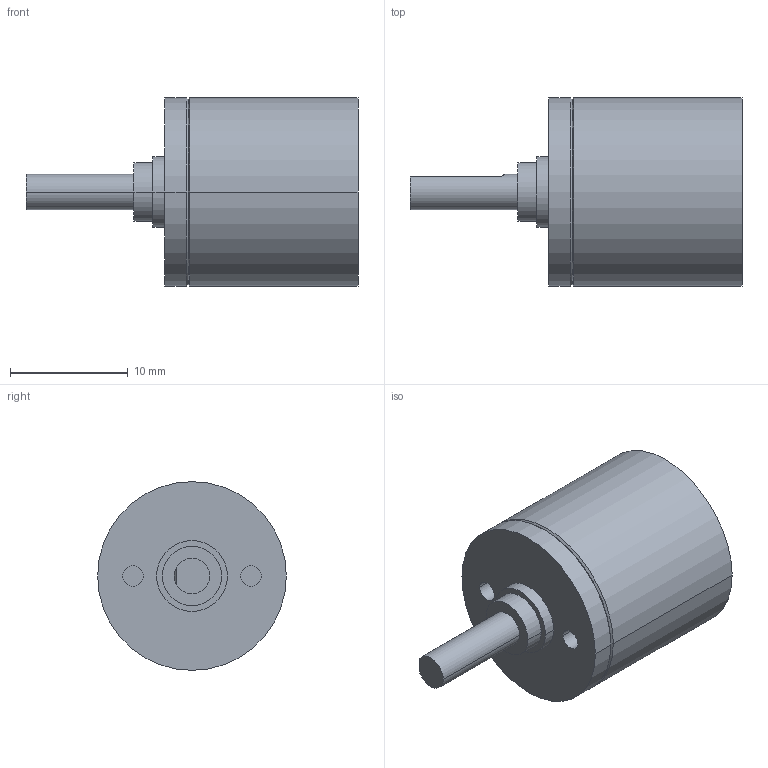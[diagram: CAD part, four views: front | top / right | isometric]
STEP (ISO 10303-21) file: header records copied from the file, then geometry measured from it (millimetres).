
FILE_DESCRIPTION((''),'2;1');
FILE_NAME('1681860','2016-10-04T',('mmagvisi'),(''),'CREO PARAMETRIC BY PTC INC, 2016050','CREO PARAMETRIC BY PTC INC, 2016050','');
FILE_SCHEMA(('CONFIG_CONTROL_DESIGN'));
Length unit declared in the file: millimetre
Products named in the file (1): 1681860
Bounding box: 28.15 x 16 x 16 mm (x, y, z)
Volume: 3197 mm3; surface area: 1454.2 mm2
Topology: 1 solids, 1 shells, 30 faces, 60 edges, 38 vertices
Faces by surface type: cylinder 16, plane 10, cone 4
Entity records: 895 total; most frequent: DIRECTION 152, CARTESIAN_POINT 133, ORIENTED_EDGE 120, AXIS2_PLACEMENT_3D 64, EDGE_CURVE 60, COLOUR_RGB 58, VERTEX_POINT 38, EDGE_LOOP 36
